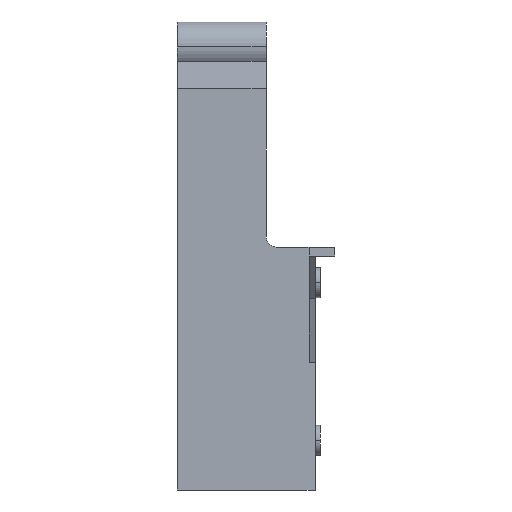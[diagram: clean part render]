
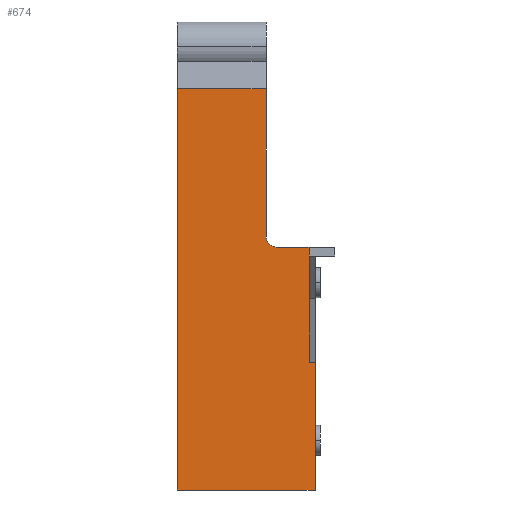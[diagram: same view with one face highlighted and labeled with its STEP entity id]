
A CAD part, front view. The second image highlights one B-rep face of the part: STEP entity #674.
In plain terms, the highlighted planar face has unit normal (0, -1, 0).
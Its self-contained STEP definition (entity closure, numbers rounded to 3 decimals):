
#17 = DIRECTION ( 'NONE',  ( -1., 0., 0. ) ) ;
#18 = CARTESIAN_POINT ( 'NONE',  ( 38.8, -7.05, 113.2 ) ) ;
#25 = DIRECTION ( 'NONE',  ( 0., 0., -1. ) ) ;
#27 = CARTESIAN_POINT ( 'NONE',  ( 37.1, -7.05, 0. ) ) ;
#88 = LINE ( 'NONE', #447, #91 ) ;
#90 = VECTOR ( 'NONE', #445, 1000. ) ;
#91 = VECTOR ( 'NONE', #448, 1000. ) ;
#125 = ORIENTED_EDGE ( 'NONE', *, *, #193, .T. ) ;
#127 = ORIENTED_EDGE ( 'NONE', *, *, #196, .T. ) ;
#131 = ORIENTED_EDGE ( 'NONE', *, *, #190, .F. ) ;
#132 = ORIENTED_EDGE ( 'NONE', *, *, #192, .F. ) ;
#135 = ORIENTED_EDGE ( 'NONE', *, *, #194, .T. ) ;
#136 = ORIENTED_EDGE ( 'NONE', *, *, #195, .F. ) ;
#137 = ORIENTED_EDGE ( 'NONE', *, *, #806, .T. ) ;
#138 = ORIENTED_EDGE ( 'NONE', *, *, #810, .F. ) ;
#139 = ORIENTED_EDGE ( 'NONE', *, *, #187, .T. ) ;
#187 = EDGE_CURVE ( 'NONE', #319, #318, #204, .T. ) ;
#190 = EDGE_CURVE ( 'NONE', #314, #320, #88, .T. ) ;
#192 = EDGE_CURVE ( 'NONE', #330, #314, #523, .T. ) ;
#193 = EDGE_CURVE ( 'NONE', #317, #422, #544, .T. ) ;
#194 = EDGE_CURVE ( 'NONE', #352, #317, #526, .T. ) ;
#195 = EDGE_CURVE ( 'NONE', #320, #318, #542, .T. ) ;
#196 = EDGE_CURVE ( 'NONE', #422, #312, #543, .T. ) ;
#204 = LINE ( 'NONE', #470, #90 ) ;
#252 = VECTOR ( 'NONE', #279, 1000. ) ;
#279 = DIRECTION ( 'NONE',  ( 0., 0., 1. ) ) ;
#288 = CARTESIAN_POINT ( 'NONE',  ( 38.8, -7.05, 36. ) ) ;
#290 = CARTESIAN_POINT ( 'NONE',  ( 28., -7.05, 71.5 ) ) ;
#312 = VERTEX_POINT ( 'NONE', #458 ) ;
#314 = VERTEX_POINT ( 'NONE', #288 ) ;
#317 = VERTEX_POINT ( 'NONE', #438 ) ;
#318 = VERTEX_POINT ( 'NONE', #457 ) ;
#319 = VERTEX_POINT ( 'NONE', #415 ) ;
#320 = VERTEX_POINT ( 'NONE', #378 ) ;
#330 = VERTEX_POINT ( 'NONE', #468 ) ;
#352 = VERTEX_POINT ( 'NONE', #392 ) ;
#378 = CARTESIAN_POINT ( 'NONE',  ( 38.8, -7.05, 0. ) ) ;
#390 = CARTESIAN_POINT ( 'NONE',  ( 25., -7.05, 71.5 ) ) ;
#392 = CARTESIAN_POINT ( 'NONE',  ( 37.1, -7.05, 68.5 ) ) ;
#415 = CARTESIAN_POINT ( 'NONE',  ( 0., -7.05, 113.2 ) ) ;
#416 = CARTESIAN_POINT ( 'NONE',  ( 25., -7.05, 0. ) ) ;
#422 = VERTEX_POINT ( 'NONE', #390 ) ;
#425 = DIRECTION ( 'NONE',  ( -1., 0., 0. ) ) ;
#437 = DIRECTION ( 'NONE',  ( -1., 0., 0. ) ) ;
#438 = CARTESIAN_POINT ( 'NONE',  ( 28., -7.05, 68.5 ) ) ;
#439 = CARTESIAN_POINT ( 'NONE',  ( 38.8, -7.05, 36. ) ) ;
#445 = DIRECTION ( 'NONE',  ( 0., 0., -1. ) ) ;
#447 = CARTESIAN_POINT ( 'NONE',  ( 38.8, -7.05, 0. ) ) ;
#448 = DIRECTION ( 'NONE',  ( 0., 0., -1. ) ) ;
#457 = CARTESIAN_POINT ( 'NONE',  ( 0., -7.05, 0. ) ) ;
#458 = CARTESIAN_POINT ( 'NONE',  ( 25., -7.05, 113.2 ) ) ;
#459 = CARTESIAN_POINT ( 'NONE',  ( 38.8, -7.05, 0. ) ) ;
#468 = CARTESIAN_POINT ( 'NONE',  ( 37.1, -7.05, 36. ) ) ;
#470 = CARTESIAN_POINT ( 'NONE',  ( 0., -7.05, 0. ) ) ;
#471 = DIRECTION ( 'NONE',  ( -1., 0., 0. ) ) ;
#472 = DIRECTION ( 'NONE',  ( 0., 1., 0. ) ) ;
#475 = CARTESIAN_POINT ( 'NONE',  ( 38.8, -7.05, 68.5 ) ) ;
#480 = DIRECTION ( 'NONE',  ( 1., 0., 0. ) ) ;
#523 = LINE ( 'NONE', #439, #524 ) ;
#524 = VECTOR ( 'NONE', #480, 1000. ) ;
#526 = LINE ( 'NONE', #475, #547 ) ;
#534 = FACE_OUTER_BOUND ( 'NONE', #892, .T. ) ;
#542 = LINE ( 'NONE', #459, #546 ) ;
#543 = LINE ( 'NONE', #416, #252 ) ;
#544 = CIRCLE ( 'NONE', #838, 3. ) ;
#546 = VECTOR ( 'NONE', #437, 1000. ) ;
#547 = VECTOR ( 'NONE', #471, 1000. ) ;
#591 = LINE ( 'NONE', #18, #592 ) ;
#592 = VECTOR ( 'NONE', #17, 1000. ) ;
#599 = LINE ( 'NONE', #27, #600 ) ;
#600 = VECTOR ( 'NONE', #25, 1000. ) ;
#674 = ADVANCED_FACE ( 'NONE', ( #534 ), #782, .F. ) ;
#759 = DIRECTION ( 'NONE',  ( -1., 0., 0. ) ) ;
#762 = DIRECTION ( 'NONE',  ( 0., 1., 0. ) ) ;
#782 = PLANE ( 'NONE',  #845 ) ;
#783 = CARTESIAN_POINT ( 'NONE',  ( 38.8, -7.05, 0. ) ) ;
#806 = EDGE_CURVE ( 'NONE', #312, #319, #591, .T. ) ;
#810 = EDGE_CURVE ( 'NONE', #352, #330, #599, .T. ) ;
#838 = AXIS2_PLACEMENT_3D ( 'NONE', #290, #472, #425 ) ;
#845 = AXIS2_PLACEMENT_3D ( 'NONE', #783, #762, #759 ) ;
#892 = EDGE_LOOP ( 'NONE', ( #132, #138, #135, #125, #127, #137, #139, #136, #131 ) ) ;
